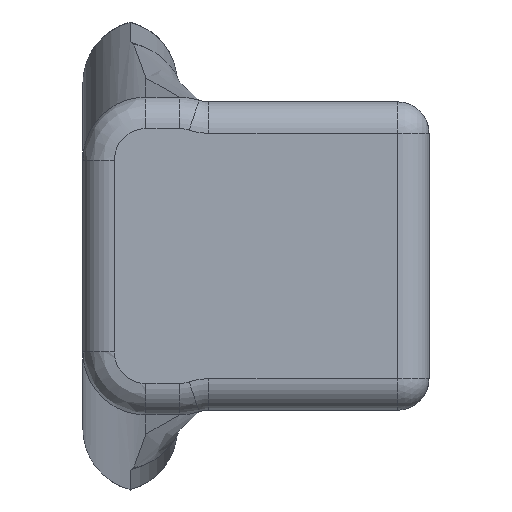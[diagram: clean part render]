
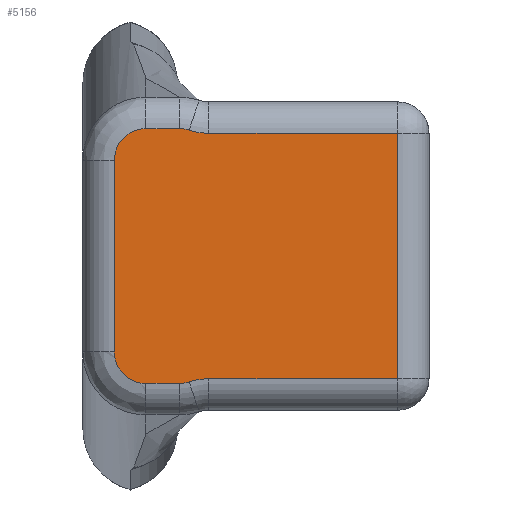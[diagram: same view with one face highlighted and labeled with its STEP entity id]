
A CAD part, left-side view. The second image highlights one B-rep face of the part: STEP entity #5156.
In plain terms, the highlighted planar face has unit normal (-1, 0, 0).
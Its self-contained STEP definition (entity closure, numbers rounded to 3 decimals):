
#65 =( BOUNDED_CURVE ( )  B_SPLINE_CURVE ( 3, ( #1268, #856, #1813, #5183 ),
 .UNSPECIFIED., .F., .T. ) 
 B_SPLINE_CURVE_WITH_KNOTS ( ( 4, 4 ),
 ( 3.142, 4.712 ),
 .UNSPECIFIED. ) 
 CURVE ( )  GEOMETRIC_REPRESENTATION_ITEM ( )  RATIONAL_B_SPLINE_CURVE ( ( 1., 0.805, 0.805, 1. ) ) 
 REPRESENTATION_ITEM ( '' )  );
#235 = AXIS2_PLACEMENT_3D ( 'NONE', #1749, #5117, #2230 ) ;
#253 = ORIENTED_EDGE ( 'NONE', *, *, #5048, .T. ) ;
#346 = EDGE_CURVE ( 'NONE', #5368, #2401, #3231, .T. ) ;
#347 = CARTESIAN_POINT ( 'NONE',  ( -25., -0.5, 1.524 ) ) ;
#545 = VERTEX_POINT ( 'NONE', #4532 ) ;
#632 = CARTESIAN_POINT ( 'NONE',  ( -25., -1.639, -2.016 ) ) ;
#653 = VECTOR ( 'NONE', #4042, 1000. ) ;
#784 = ORIENTED_EDGE ( 'NONE', *, *, #346, .T. ) ;
#814 = DIRECTION ( 'NONE',  ( 0., 1., 0. ) ) ;
#821 = ORIENTED_EDGE ( 'NONE', *, *, #4364, .F. ) ;
#856 = CARTESIAN_POINT ( 'NONE',  ( -25., -0.707, -2.024 ) ) ;
#956 = B_SPLINE_CURVE_WITH_KNOTS ( 'NONE', 3,
 ( #5433, #632, #1585, #4948 ),
 .UNSPECIFIED., .F., .F.,
 ( 4, 4 ),
 ( 0., 0. ),
 .UNSPECIFIED. ) ;
#988 = AXIS2_PLACEMENT_3D ( 'NONE', #4700, #1821, #5196 ) ;
#1103 = VECTOR ( 'NONE', #1603, 1000. ) ;
#1268 = CARTESIAN_POINT ( 'NONE',  ( -25., -1., -2.024 ) ) ;
#1271 = DIRECTION ( 'NONE',  ( 0., -1., 0. ) ) ;
#1369 = CARTESIAN_POINT ( 'NONE',  ( -25., -1.5, -2.5 ) ) ;
#1565 = VECTOR ( 'NONE', #1271, 1000. ) ;
#1585 = CARTESIAN_POINT ( 'NONE',  ( -25., -1.585, -2.024 ) ) ;
#1603 = DIRECTION ( 'NONE',  ( 0., -1., 0. ) ) ;
#1629 = CARTESIAN_POINT ( 'NONE',  ( -25., -0.5, -1.524 ) ) ;
#1676 = CARTESIAN_POINT ( 'NONE',  ( -25., -5., -1.95 ) ) ;
#1749 = CARTESIAN_POINT ( 'NONE',  ( -25., -2., -2.95 ) ) ;
#1756 = EDGE_CURVE ( 'NONE', #3551, #3426, #3233, .T. ) ;
#1774 = EDGE_CURVE ( 'NONE', #5769, #3930, #1934, .T. ) ;
#1813 = CARTESIAN_POINT ( 'NONE',  ( -25., -0.5, -1.817 ) ) ;
#1821 = DIRECTION ( 'NONE',  ( 1., 0., 0. ) ) ;
#1934 = LINE ( 'NONE', #4968, #653 ) ;
#1973 = ORIENTED_EDGE ( 'NONE', *, *, #3555, .F. ) ;
#2052 = CARTESIAN_POINT ( 'NONE',  ( -25., -1.531, 2.024 ) ) ;
#2214 = EDGE_CURVE ( 'NONE', #3651, #5724, #4064, .T. ) ;
#2230 = DIRECTION ( 'NONE',  ( 0., 0., 1. ) ) ;
#2253 = CARTESIAN_POINT ( 'NONE',  ( -25., -0.5, -2.5 ) ) ;
#2401 = VERTEX_POINT ( 'NONE', #5316 ) ;
#2512 = CARTESIAN_POINT ( 'NONE',  ( -25., -1., -2.024 ) ) ;
#2535 = CARTESIAN_POINT ( 'NONE',  ( -25., -1.69, 1.999 ) ) ;
#2601 = EDGE_CURVE ( 'NONE', #3930, #3651, #3844, .T. ) ;
#2627 = CARTESIAN_POINT ( 'NONE',  ( -25., -2., 1.95 ) ) ;
#2704 = DIRECTION ( 'NONE',  ( 0., 0., -1. ) ) ;
#2777 = EDGE_CURVE ( 'NONE', #4588, #5769, #4158, .T. ) ;
#2903 = CARTESIAN_POINT ( 'NONE',  ( -25., -1., 2.024 ) ) ;
#2921 = CARTESIAN_POINT ( 'NONE',  ( -25., -1.5, 2.024 ) ) ;
#2930 = EDGE_CURVE ( 'NONE', #5879, #5687, #5673, .T. ) ;
#2990 = CARTESIAN_POINT ( 'NONE',  ( -25., -1.639, 2.016 ) ) ;
#3104 = CARTESIAN_POINT ( 'NONE',  ( -25., -1.69, 1.999 ) ) ;
#3121 = EDGE_CURVE ( 'NONE', #5879, #2401, #5885, .T. ) ;
#3231 = LINE ( 'NONE', #2921, #5651 ) ;
#3233 = LINE ( 'NONE', #4504, #1103 ) ;
#3301 = FACE_OUTER_BOUND ( 'NONE', #3540, .T. ) ;
#3315 = DIRECTION ( 'NONE',  ( 0., 0., 1. ) ) ;
#3383 = CARTESIAN_POINT ( 'NONE',  ( -25., -0.5, 1.524 ) ) ;
#3414 = CARTESIAN_POINT ( 'NONE',  ( -25., -1.531, -2.024 ) ) ;
#3419 = ORIENTED_EDGE ( 'NONE', *, *, #2777, .T. ) ;
#3426 = VERTEX_POINT ( 'NONE', #3414 ) ;
#3458 = DIRECTION ( 'NONE',  ( 0., 1., 0. ) ) ;
#3540 = EDGE_LOOP ( 'NONE', ( #6203, #4523, #6247, #3814, #1973, #253, #3419, #4175, #4164, #4400, #821, #784 ) ) ;
#3551 = VERTEX_POINT ( 'NONE', #2512 ) ;
#3555 = EDGE_CURVE ( 'NONE', #545, #3426, #956, .T. ) ;
#3651 = VERTEX_POINT ( 'NONE', #2627 ) ;
#3814 = ORIENTED_EDGE ( 'NONE', *, *, #1756, .T. ) ;
#3844 = LINE ( 'NONE', #6088, #4942 ) ;
#3930 = VERTEX_POINT ( 'NONE', #5215 ) ;
#3936 = CARTESIAN_POINT ( 'NONE',  ( -25., -1.586, 2.024 ) ) ;
#4042 = DIRECTION ( 'NONE',  ( 0., 0., 1. ) ) ;
#4064 = CIRCLE ( 'NONE', #988, 1. ) ;
#4124 = AXIS2_PLACEMENT_3D ( 'NONE', #1369, #6196, #3315 ) ;
#4158 = LINE ( 'NONE', #4635, #1565 ) ;
#4164 = ORIENTED_EDGE ( 'NONE', *, *, #2601, .T. ) ;
#4175 = ORIENTED_EDGE ( 'NONE', *, *, #1774, .T. ) ;
#4238 = VECTOR ( 'NONE', #2704, 1000. ) ;
#4355 = CARTESIAN_POINT ( 'NONE',  ( -25., -0.5, 1.817 ) ) ;
#4364 = EDGE_CURVE ( 'NONE', #5368, #5724, #5714, .T. ) ;
#4400 = ORIENTED_EDGE ( 'NONE', *, *, #2214, .T. ) ;
#4454 = CARTESIAN_POINT ( 'NONE',  ( -25., -1.531, 2.024 ) ) ;
#4504 = CARTESIAN_POINT ( 'NONE',  ( -25., -1.5, -2.024 ) ) ;
#4523 = ORIENTED_EDGE ( 'NONE', *, *, #2930, .T. ) ;
#4532 = CARTESIAN_POINT ( 'NONE',  ( -25., -1.69, -1.999 ) ) ;
#4588 = VERTEX_POINT ( 'NONE', #5248 ) ;
#4635 = CARTESIAN_POINT ( 'NONE',  ( -25., -5., -1.95 ) ) ;
#4700 = CARTESIAN_POINT ( 'NONE',  ( -25., -2., 2.95 ) ) ;
#4737 = PLANE ( 'NONE',  #4124 ) ;
#4858 = CIRCLE ( 'NONE', #235, 1. ) ;
#4942 = VECTOR ( 'NONE', #814, 1000. ) ;
#4948 = CARTESIAN_POINT ( 'NONE',  ( -25., -1.531, -2.024 ) ) ;
#4968 = CARTESIAN_POINT ( 'NONE',  ( -25., -5., -2.5 ) ) ;
#5048 = EDGE_CURVE ( 'NONE', #545, #4588, #4858, .T. ) ;
#5077 = EDGE_CURVE ( 'NONE', #3551, #5687, #65, .T. ) ;
#5117 = DIRECTION ( 'NONE',  ( 1., 0., 0. ) ) ;
#5156 = ADVANCED_FACE ( 'NONE', ( #3301 ), #4737, .T. ) ;
#5183 = CARTESIAN_POINT ( 'NONE',  ( -25., -0.5, -1.524 ) ) ;
#5196 = DIRECTION ( 'NONE',  ( 0., 0., 1. ) ) ;
#5215 = CARTESIAN_POINT ( 'NONE',  ( -25., -5., 1.95 ) ) ;
#5248 = CARTESIAN_POINT ( 'NONE',  ( -25., -2., -1.95 ) ) ;
#5316 = CARTESIAN_POINT ( 'NONE',  ( -25., -1., 2.024 ) ) ;
#5368 = VERTEX_POINT ( 'NONE', #4454 ) ;
#5433 = CARTESIAN_POINT ( 'NONE',  ( -25., -1.69, -1.999 ) ) ;
#5651 = VECTOR ( 'NONE', #3458, 1000. ) ;
#5673 = LINE ( 'NONE', #2253, #4238 ) ;
#5687 = VERTEX_POINT ( 'NONE', #1629 ) ;
#5714 = B_SPLINE_CURVE_WITH_KNOTS ( 'NONE', 3,
 ( #2052, #3936, #2990, #2535 ),
 .UNSPECIFIED., .F., .F.,
 ( 4, 4 ),
 ( 0., 0. ),
 .UNSPECIFIED. ) ;
#5724 = VERTEX_POINT ( 'NONE', #3104 ) ;
#5769 = VERTEX_POINT ( 'NONE', #1676 ) ;
#5806 = CARTESIAN_POINT ( 'NONE',  ( -25., -0.707, 2.024 ) ) ;
#5879 = VERTEX_POINT ( 'NONE', #347 ) ;
#5885 =( BOUNDED_CURVE ( )  B_SPLINE_CURVE ( 3, ( #3383, #4355, #5806, #2903 ),
 .UNSPECIFIED., .F., .F. ) 
 B_SPLINE_CURVE_WITH_KNOTS ( ( 4, 4 ),
 ( 4.712, 6.283 ),
 .UNSPECIFIED. ) 
 CURVE ( )  GEOMETRIC_REPRESENTATION_ITEM ( )  RATIONAL_B_SPLINE_CURVE ( ( 1., 0.805, 0.805, 1. ) ) 
 REPRESENTATION_ITEM ( '' )  );
#6088 = CARTESIAN_POINT ( 'NONE',  ( -25., -2., 1.95 ) ) ;
#6196 = DIRECTION ( 'NONE',  ( -1., 0., 0. ) ) ;
#6203 = ORIENTED_EDGE ( 'NONE', *, *, #3121, .F. ) ;
#6247 = ORIENTED_EDGE ( 'NONE', *, *, #5077, .F. ) ;
